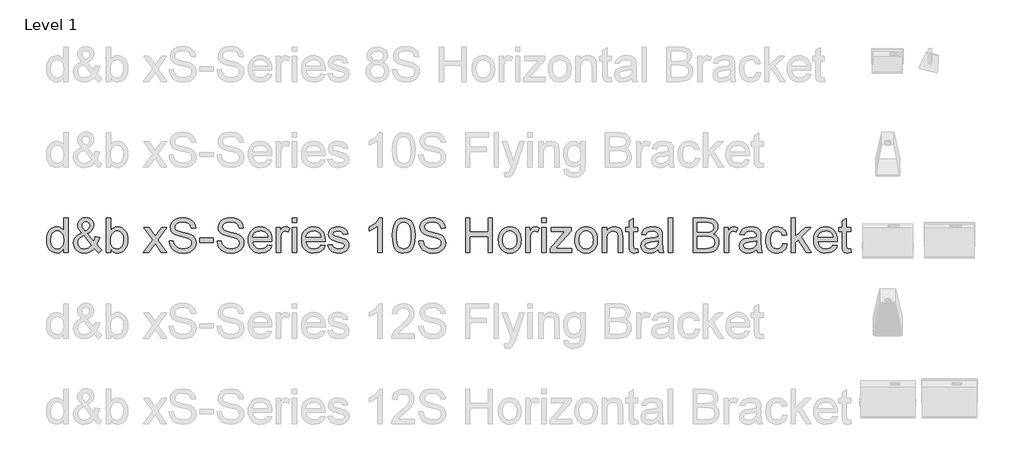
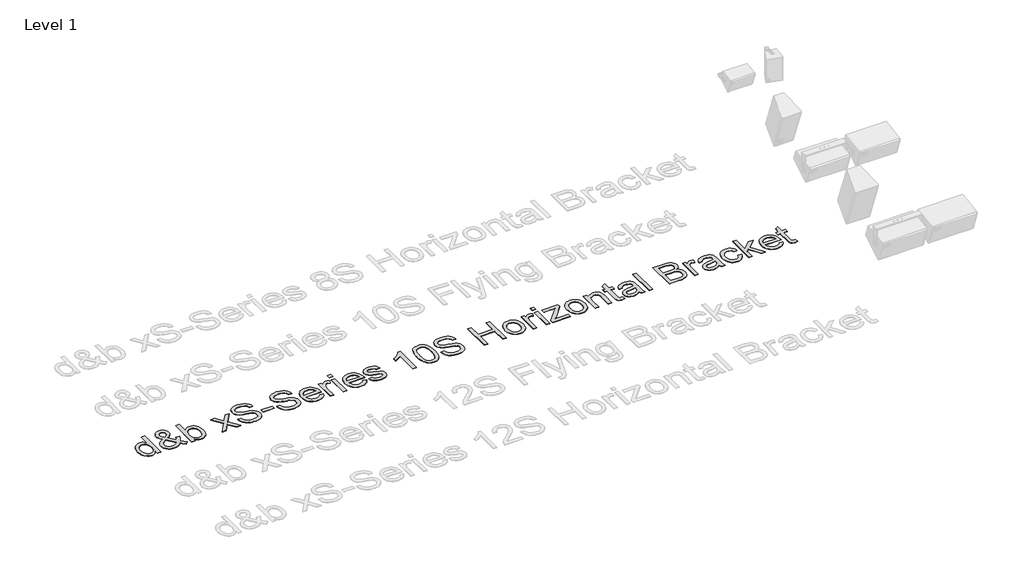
# One storey, part 35 of 55: 1 proxy.
"""IFC4 building model written with IfcOpenShell, lengths in millimetres."""

from ifc_helpers import new_model, si_unit, origin, origin_with_axes, place, context, project, spatial, polyline, outline, extrude, element, save

model = new_model("IFC4")

# Units and contexts
model_context = context("Model", 3, world=origin())
ifc_project = project(units=[si_unit("LENGTHUNIT", "METRE", prefix="MILLI")], contexts=[model_context])

# Site, building, storey
site = spatial("IfcSite", under=ifc_project)
building = spatial("IfcBuilding", under=site)
storey = spatial("IfcBuildingStorey", under=building, Name="Level 1", Elevation=0.0)

# Proxy
placement = place(None, origin())
element("IfcBuildingElementProxy", 1, Name="400mm Arial", ObjectType="400mm Arial", at=placement, inside=storey, context=model_context, shape_type="SweptSolid", body=[
    extrude(outline(polyline([(-20879.8211974, -648.6945164), (-20879.8211974, -601.3113154), (-20894.8491769, -624.7883181), (-20913.0532043, -641.5576057), (-20934.4332796, -651.6191783), (-20958.9894028, -654.9730358), (-20991.4611202, -650.1169935), (-21021.1859854, -635.5488665), (-21046.3491139, -612.2864616), (-21065.1356211, -581.3475858), (-21076.8342686, -543.9830379), (-21080.7338177, -501.4436165), (-21077.1408369, -459.4314926), (-21066.3618944, -421.4905962), (-21048.4092531, -389.7791682), (-21023.2951755, -366.4554497), (-20992.9203855, -352.1080519), (-20959.1856065, -347.325586), (-20934.6110892, -350.7468885), (-20912.8815261, -361.0107962), (-20894.4629008, -376.7438829), (-20879.8211974, -396.5727224), (-20879.8211974, -246.8692758), (-20829.5930424, -246.8692758), (-20829.5930424, -648.6945164), (-20879.8211974, -648.6945164)]), holes=[polyline([(-21030.5056627, -501.2474128), (-21029.089317, -525.6042665), (-21024.8402799, -546.6808392), (-21017.7585515, -564.4771307), (-21007.8441318, -578.9931411), (-20983.1469871, -598.3069458), (-20969.2717046, -603.135397), (-20954.3786151, -604.7448807), (-20939.415015, -603.2089734), (-20925.6225058, -598.6012514), (-20901.5507606, -580.1703635), (-20892.0440767, -566.2613584), (-20885.2535882, -549.1088603), (-20879.8211974, -505.0733855), (-20885.3516901, -456.9298951), (-20892.2648059, -438.3947739), (-20901.9431681, -423.5507354), (-20913.6448812, -412.1770504), (-20926.6280499, -404.0529896), (-20940.8926743, -399.1785532), (-20956.4387543, -397.5537411), (-20971.6261493, -399.1141738), (-20985.5014319, -403.7954722), (-20998.064602, -411.5976362), (-21009.3156597, -422.5206658), (-21018.586286, -436.8036843), (-21025.2081619, -454.6858149), (-21030.5056627, -501.2474128)])]), origin_with_axes(), (0.0, 0.0, 1.0), 5.0),
    extrude(outline(polyline([(-20523.809528, -599.0549725), (-20549.3405384, -623.5191252), (-20577.0788409, -640.99352), (-20607.0734862, -651.4781569), (-20639.3735254, -654.9730358), (-20668.6814577, -652.3855991), (-20694.8010793, -644.623289), (-20717.7323904, -631.6861055), (-20737.4753908, -613.5740486), (-20750.308341, -596.2038871), (-20759.4747341, -577.8404442), (-20764.9745699, -558.4837198), (-20766.8078485, -538.1337141), (-20760.9094739, -502.9396699), (-20743.2143499, -471.3263438), (-20713.796053, -443.3182613), (-20672.7281596, -418.9399477), (-20694.6416638, -390.5885086), (-20707.7995765, -368.1231814), (-20714.3846642, -348.9442668), (-20716.5796934, -330.4520651), (-20714.8506481, -312.8979626), (-20709.6635119, -296.5333452), (-20701.018285, -281.3582129), (-20688.9149674, -267.3725657), (-20674.1935562, -255.6555241), (-20657.6940487, -247.2862088), (-20639.4164449, -242.2646195), (-20619.3607448, -240.5907564), (-20600.212487, -242.1910431), (-20582.8913764, -246.9919032), (-20567.397413, -254.9933366), (-20553.7305969, -266.1953433), (-20542.5715097, -279.6414302), (-20534.6007332, -294.3751041), (-20529.8182672, -310.396365), (-20528.2241119, -327.7052129), (-20532.9452642, -355.68877), (-20547.108721, -381.563137), (-20570.7144823, -405.3283139), (-20603.7625482, -426.9843007), (-20531.069066, -517.5323224), (-20518.6837055, -491.6579554), (-20509.3885538, -461.9085647), (-20459.1603987, -472.7978718), (-20474.6114425, -519.3226815), (-20494.6732739, -555.4977443), (-20466.1256311, -588.8033276), (-20434.0463211, -616.3209009), (-20471.7174374, -654.9730358), (-20497.3465498, -631.52669), (-20523.809528, -599.0549725)]), holes=[polyline([(-20557.4584678, -562.8553842), (-20647.1235727, -450.9211558), (-20681.3733865, -472.7733463), (-20702.305872, -493.0068561), (-20713.0112381, -512.3329235), (-20716.5796934, -531.4627873), (-20711.6991256, -555.1543878), (-20697.0574222, -579.7289051), (-20686.2784798, -590.6733944), (-20673.4639236, -598.4908868), (-20658.6137537, -603.1813823), (-20641.7279702, -604.7448807), (-20619.0051256, -601.8263502), (-20595.5710425, -593.0707588), (-20574.1480476, -579.6798541), (-20557.4584678, -562.8553842)]), polyline([(-20629.1709314, -395.2973981), (-20602.9041569, -378.6323438), (-20587.8700461, -364.1500559), (-20580.8067117, -350.0601755), (-20578.452267, -334.5723435), (-20581.5547385, -317.0243723), (-20590.862153, -303.0325938), (-20604.829406, -293.8723321), (-20621.9113933, -290.8189115), (-20639.3612626, -293.8478066), (-20653.6473468, -302.9344919), (-20663.1754905, -316.3867102), (-20666.3515384, -332.5122043), (-20662.0350563, -350.9063041), (-20648.9875082, -371.360543), (-20629.1709314, -395.2973981)])]), origin_with_axes(), (0.0, 0.0, 1.0), 5.0),
    extrude(outline(polyline([(-20333.590011, -648.6945164), (-20383.8181661, -648.6945164), (-20383.8181661, -246.8692758), (-20333.590011, -246.8692758), (-20333.590011, -395.8860093), (-20317.0721094, -374.6408241), (-20298.4204923, -359.4656918), (-20277.6351595, -350.3606124), (-20254.7161112, -347.325586), (-20228.8417442, -350.0601755), (-20204.3898543, -358.263944), (-20182.758393, -371.4218567), (-20165.3453119, -389.0188788), (-20151.6968898, -410.883332), (-20141.3594058, -436.8435381), (-20134.8478945, -465.8203766), (-20132.6773907, -496.734727), (-20134.9245365, -532.4070178), (-20141.6659741, -563.7873519), (-20152.9017034, -590.8757295), (-20168.6317244, -613.6721505), (-20187.5132678, -631.7412878), (-20208.2035643, -644.6478145), (-20230.702614, -652.3917305), (-20255.0104168, -654.9730358), (-20278.6836232, -651.6437038), (-20299.671291, -641.6557076), (-20317.9734203, -625.0090473), (-20333.590011, -601.7037229), (-20333.590011, -648.6945164)]), holes=[polyline([(-20333.590011, -499.0891717), (-20330.1564457, -540.9786682), (-20319.8557498, -569.3301073), (-20307.6849872, -584.8240707), (-20293.5399244, -595.8911874), (-20277.4205617, -602.5314574), (-20259.3268989, -604.7448807), (-20244.3050508, -603.1139372), (-20230.3377977, -598.2211067), (-20217.4251396, -590.0663891), (-20205.5670767, -578.6497845), (-20195.6526569, -564.0019498), (-20188.5709285, -546.1535416), (-20184.3218914, -525.1045601), (-20182.9055458, -500.8550053), (-20188.3379366, -454.8942814), (-20195.1284251, -437.1010555), (-20204.6351089, -422.7659205), (-20216.0670419, -411.735592), (-20228.6332778, -403.8567859), (-20242.3338164, -399.1295023), (-20257.1686579, -397.5537411), (-20272.190506, -399.1846846), (-20286.1577591, -404.0775151), (-20299.0704171, -412.2322327), (-20310.9284801, -423.6488372), (-20320.8428999, -438.1495192), (-20327.9246283, -455.556469), (-20332.1736653, -475.8696865), (-20333.590011, -499.0891717)])]), origin_with_axes(), (0.0, 0.0, 1.0), 5.0),
    extrude(outline(polyline([(-19950.6003285, -648.6945164), (-19843.2768878, -500.2663941), (-19944.3218092, -353.6041054), (-19884.0872638, -353.6041054), (-19835.3306367, -424.3355503), (-19812.4729021, -457.5920827), (-19792.6563253, -430.3197641), (-19737.1306695, -353.6041054), (-19676.6999204, -353.6041054), (-19782.8461387, -500.364496), (-19680.623995, -648.6945164), (-19740.9566422, -648.6945164), (-19802.5646137, -559.4218189), (-19813.7482263, -543.0388074), (-19890.1695795, -648.6945164), (-19950.6003285, -648.6945164)])), origin_with_axes(), (0.0, 0.0, 1.0), 5.0),
    extrude(outline(polyline([(-19649.2313981, -510.56709), (-19599.003243, -510.56709), (-19593.2397584, -538.4402825), (-19582.8164352, -560.844296), (-19566.556051, -578.6252591), (-19543.2813835, -592.6293004), (-19514.8318425, -601.7159856), (-19483.0468381, -604.7448807), (-19455.063281, -602.4517496), (-19430.5623402, -595.5723563), (-19410.7089752, -584.6830493), (-19396.6681457, -570.3601769), (-19388.3172244, -553.9158517), (-19385.533584, -536.6621862), (-19387.6182486, -519.849979), (-19393.8722425, -505.3186402), (-19406.5764341, -492.9210169), (-19428.0116917, -482.5099565), (-19501.1466323, -463.3310418), (-19549.1552327, -450.639113), (-19579.8733793, -438.5603208), (-19604.8770922, -421.6622745), (-19622.5967416, -401.1835101), (-19633.1549549, -377.565486), (-19636.6743593, -351.2496606), (-19632.3210891, -321.8313637), (-19619.2612782, -294.3996296), (-19597.8382834, -271.1494875), (-19568.395461, -254.2759667), (-19533.054264, -244.012059), (-19493.9361452, -240.5907564), (-19451.5561394, -244.1714745), (-19414.4736342, -254.9136288), (-19384.013005, -272.59649), (-19361.4986269, -296.999329), (-19347.249331, -326.6015669), (-19341.5839483, -359.8826247), (-19391.8121033, -359.8826247), (-19401.0336787, -329.9125049), (-19409.3968627, -318.0544419), (-19420.2616443, -308.2810436), (-19450.3053406, -295.1844445), (-19491.9741079, -290.8189115), (-19534.6238939, -295.1353936), (-19550.9271976, -300.5309962), (-19563.8827752, -308.0848398), (-19580.805347, -327.1411272), (-19586.4462043, -349.7781326), (-19582.4485532, -369.0796746), (-19570.4556002, -384.6042948), (-19542.1041611, -398.4857088), (-19488.4424407, -412.6614283), (-19433.0639377, -426.1259093), (-19399.5621507, -437.8736077), (-19370.9286687, -456.0960292), (-19350.9526764, -478.5858819), (-19339.2172408, -505.097911), (-19335.3054289, -535.3868619), (-19339.805852, -566.3502632), (-19353.3071212, -595.4742545), (-19375.2574136, -620.5392811), (-19405.1049061, -639.3257883), (-19440.9979261, -651.0612239), (-19481.0848008, -654.9730358), (-19530.2951491, -650.7546556), (-19570.7989567, -638.099515), (-19603.0622077, -616.958563), (-19627.5508858, -587.2827487), (-19643.2717098, -551.1322113), (-19649.2313981, -510.56709)])), origin_with_axes(), (0.0, 0.0, 1.0), 5.0),
    extrude(outline(polyline([(-19291.3557932, -529.4026481), (-19291.3557932, -479.174493), (-19134.3928086, -479.174493), (-19134.3928086, -529.4026481), (-19291.3557932, -529.4026481)])), origin_with_axes(), (0.0, 0.0, 1.0), 5.0),
    extrude(outline(polyline([(-19090.4431729, -510.56709), (-19040.2150178, -510.56709), (-19034.4515332, -538.4402825), (-19024.02821, -560.844296), (-19007.7678258, -578.6252591), (-18984.4931583, -592.6293004), (-18956.0436173, -601.7159856), (-18924.2586129, -604.7448807), (-18896.2750558, -602.4517496), (-18871.774115, -595.5723563), (-18851.9207499, -584.6830493), (-18837.8799205, -570.3601769), (-18829.5289992, -553.9158517), (-18826.7453587, -536.6621862), (-18828.8300234, -519.849979), (-18835.0840173, -505.3186402), (-18847.7882089, -492.9210169), (-18869.2234665, -482.5099565), (-18942.3584071, -463.3310418), (-18990.3670075, -450.639113), (-19021.0851541, -438.5603208), (-19046.088867, -421.6622745), (-19063.8085164, -401.1835101), (-19074.3667297, -377.565486), (-19077.8861341, -351.2496606), (-19073.5328638, -321.8313637), (-19060.473053, -294.3996296), (-19039.0500582, -271.1494875), (-19009.6072358, -254.2759667), (-18974.2660388, -244.012059), (-18935.14792, -240.5907564), (-18892.7679141, -244.1714745), (-18855.685409, -254.9136288), (-18825.2247798, -272.59649), (-18802.7104017, -296.999329), (-18788.4611058, -326.6015669), (-18782.7957231, -359.8826247), (-18833.0238781, -359.8826247), (-18842.2454535, -329.9125049), (-18850.6086375, -318.0544419), (-18861.4734191, -308.2810436), (-18891.5171154, -295.1844445), (-18933.1858827, -290.8189115), (-18975.8356687, -295.1353936), (-18992.1389724, -300.5309962), (-19005.09455, -308.0848398), (-19022.0171218, -327.1411272), (-19027.657979, -349.7781326), (-19023.660328, -369.0796746), (-19011.667375, -384.6042948), (-18983.3159359, -398.4857088), (-18929.6542155, -412.6614283), (-18874.2757125, -426.1259093), (-18840.7739255, -437.8736077), (-18812.1404435, -456.0960292), (-18792.1644512, -478.5858819), (-18780.4290156, -505.097911), (-18776.5172037, -535.3868619), (-18781.0176267, -566.3502632), (-18794.518896, -595.4742545), (-18816.4691883, -620.5392811), (-18846.3166809, -639.3257883), (-18882.2097009, -651.0612239), (-18922.2965756, -654.9730358), (-18971.5069238, -650.7546556), (-19012.0107315, -638.099515), (-19044.2739825, -616.958563), (-19068.7626606, -587.2827487), (-19084.4834846, -551.1322113), (-19090.4431729, -510.56709)])), origin_with_axes(), (0.0, 0.0, 1.0), 5.0),
    extrude(outline(polyline([(-18500.850962, -560.795245), (-18451.6038255, -567.0737644), (-18459.1546035, -586.7983707), (-18469.3480004, -604.180795), (-18482.1840164, -619.2210372), (-18497.6626513, -631.9190974), (-18515.6244897, -642.0051955), (-18535.9101161, -649.2095512), (-18583.4527326, -654.9730358), (-18614.618469, -652.4867667), (-18642.3874282, -645.0279592), (-18666.7596104, -632.5966135), (-18687.7350155, -615.1927294), (-18704.602405, -593.300685), (-18716.6505403, -567.4048582), (-18723.8794215, -537.5052491), (-18726.2890486, -503.6018575), (-18723.8548961, -468.5488348), (-18716.5524385, -437.6528785), (-18704.3816758, -410.9139888), (-18687.342608, -388.3321657), (-18666.4223852, -370.3917871), (-18642.6081574, -357.5772309), (-18615.8999246, -349.8884972), (-18586.2976867, -347.325586), (-18557.6488763, -349.8823658), (-18531.7407868, -357.5527054), (-18508.5734182, -370.3366048), (-18488.1467704, -388.2340638), (-18471.472519, -410.766836), (-18459.5623394, -437.4566748), (-18452.4162316, -468.3035801), (-18450.0341957, -503.3075519), (-18450.3285013, -516.8456094), (-18676.0608935, -516.8456094), (-18673.1515601, -536.8890467), (-18667.3666157, -554.4431493), (-18658.7060604, -569.507917), (-18647.1698942, -582.0833498), (-18633.3957791, -591.9977696), (-18618.0213774, -599.079498), (-18582.4717139, -604.7448807), (-18555.7389556, -602.1206558), (-18533.2245775, -594.2479811), (-18514.9285796, -580.6363473), (-18500.850962, -560.795245)]), holes=[polyline([(-18676.0608935, -466.6174543), (-18500.2623508, -466.6174543), (-18507.0559049, -440.0808997), (-18520.3732332, -421.0981887), (-18534.0707061, -410.7974929), (-18549.65664, -403.439853), (-18567.1310348, -399.025269), (-18586.4938904, -397.5537411), (-18620.3512967, -402.2503679), (-18648.3471166, -416.3402483), (-18667.8080741, -438.3028034), (-18676.0608935, -466.6174543)])]), origin_with_axes(), (0.0, 0.0, 1.0), 5.0),
    extrude(outline(polyline([(-18399.8060406, -648.6945164), (-18399.8060406, -353.6041054), (-18355.8564049, -353.6041054), (-18355.8564049, -397.2594355), (-18339.6205462, -371.9491542), (-18324.6600117, -357.0376707), (-18309.6504263, -349.7536071), (-18293.2674148, -347.325586), (-18268.2514391, -351.2006097), (-18242.843056, -362.8256807), (-18259.618475, -407.8544369), (-18277.2768108, -400.128915), (-18294.9351465, -397.5537411), (-18309.9324692, -400.0308132), (-18323.3356365, -407.4620295), (-18334.1636299, -419.2833042), (-18341.4354307, -434.9305518), (-18347.5422718, -462.9876853), (-18349.5778855, -493.5954673), (-18349.5778855, -648.6945164), (-18399.8060406, -648.6945164)])), origin_with_axes(), (0.0, 0.0, 1.0), 5.0),
    extrude(outline(polyline([(-18211.4504591, -297.0974309), (-18211.4504591, -246.8692758), (-18161.222304, -246.8692758), (-18161.222304, -297.0974309), (-18211.4504591, -297.0974309)])), origin_with_axes(), (0.0, 0.0, 1.0), 5.0),
    extrude(outline(polyline([(-18211.4504591, -648.6945164), (-18211.4504591, -353.6041054), (-18161.222304, -353.6041054), (-18161.222304, -648.6945164), (-18211.4504591, -648.6945164)])), origin_with_axes(), (0.0, 0.0, 1.0), 5.0),
    extrude(outline(polyline([(-17879.2775429, -560.795245), (-17830.0304065, -567.0737644), (-17837.5811844, -586.7983707), (-17847.7745814, -604.180795), (-17860.6105973, -619.2210372), (-17876.0892323, -631.9190974), (-17894.0510707, -642.0051955), (-17914.336697, -649.2095512), (-17961.8793136, -654.9730358), (-17993.0450499, -652.4867667), (-18020.8140092, -645.0279592), (-18045.1861914, -632.5966135), (-18066.1615965, -615.1927294), (-18083.0289859, -593.300685), (-18095.0771213, -567.4048582), (-18102.3060025, -537.5052491), (-18104.7156295, -503.6018575), (-18102.281477, -468.5488348), (-18094.9790194, -437.6528785), (-18082.8082567, -410.9139888), (-18065.769189, -388.3321657), (-18044.8489662, -370.3917871), (-18021.0347384, -357.5772309), (-17994.3265055, -349.8884972), (-17964.7242676, -347.325586), (-17936.0754573, -349.8823658), (-17910.1673678, -357.5527054), (-17886.9999991, -370.3366048), (-17866.5733513, -388.2340638), (-17849.8990999, -410.766836), (-17837.9889203, -437.4566748), (-17830.8428126, -468.3035801), (-17828.4607766, -503.3075519), (-17828.7550822, -516.8456094), (-18054.4874745, -516.8456094), (-18051.578141, -536.8890467), (-18045.7931967, -554.4431493), (-18037.1326413, -569.507917), (-18025.5964751, -582.0833498), (-18011.8223601, -591.9977696), (-17996.4479584, -599.079498), (-17960.8982949, -604.7448807), (-17934.1655366, -602.1206558), (-17911.6511585, -594.2479811), (-17893.3551606, -580.6363473), (-17879.2775429, -560.795245)]), holes=[polyline([(-18054.4874745, -466.6174543), (-17878.6889317, -466.6174543), (-17885.4824859, -440.0808997), (-17898.7998141, -421.0981887), (-17912.4972871, -410.7974929), (-17928.0832209, -403.439853), (-17945.5576157, -399.025269), (-17964.9204714, -397.5537411), (-17998.7778777, -402.2503679), (-18026.7736975, -416.3402483), (-18046.234655, -438.3028034), (-18054.4874745, -466.6174543)])]), origin_with_axes(), (0.0, 0.0, 1.0), 5.0),
    extrude(outline(polyline([(-17797.0681797, -560.795245), (-17746.8400246, -554.5167257), (-17738.918299, -576.0010342), (-17723.5898825, -591.7954345), (-17700.7566734, -601.5075192), (-17670.3205696, -604.7448807), (-17640.2523479, -601.7772993), (-17619.1113959, -592.874555), (-17606.6034081, -579.9741597), (-17602.4340788, -565.0136253), (-17606.6279335, -552.2113318), (-17619.2094978, -542.4501962), (-17670.9091808, -528.1273239), (-17746.545719, -503.5528066), (-17765.6878455, -491.2042343), (-17779.5569967, -474.858011), (-17787.9814944, -455.556469), (-17790.7896603, -434.3419406), (-17788.5333174, -414.880983), (-17781.7642887, -396.9160789), (-17771.0957109, -381.1584668), (-17757.1407205, -368.3193852), (-17725.2085633, -353.4569526), (-17704.3251287, -348.8584276), (-17681.9946916, -347.325586), (-17649.302245, -349.7903953), (-17620.8772295, -357.1848234), (-17598.0194949, -368.785369), (-17582.0288908, -383.8685308), (-17571.4338893, -403.5502176), (-17564.7629625, -428.946338), (-17614.9911176, -435.2248574), (-17621.3309506, -419.4181943), (-17633.8757267, -407.5110804), (-17652.748073, -400.0430759), (-17678.070617, -397.5537411), (-17706.9125654, -399.9327113), (-17726.140531, -407.069622), (-17736.9562617, -417.3703179), (-17740.5615053, -429.2406436), (-17734.5772915, -443.8578215), (-17715.8398352, -454.9433323), (-17672.5769125, -465.6364356), (-17598.8533607, -489.2789852), (-17579.3801404, -500.5852252), (-17564.6158097, -516.0607944), (-17555.3083952, -535.7547439), (-17552.2059237, -559.7161245), (-17555.8479555, -584.4868455), (-17566.7740507, -607.7860386), (-17584.5672766, -627.7865564), (-17608.8107, -642.6612517), (-17638.0941069, -651.8950898), (-17671.0072827, -654.9730358), (-17698.040478, -653.4892451), (-17721.6523707, -649.037873), (-17741.8429609, -641.6189194), (-17758.6122485, -631.2323844), (-17772.3097214, -617.9273189), (-17783.2848676, -601.7527738), (-17791.5376871, -582.7087492), (-17797.0681797, -560.795245)])), origin_with_axes(), (0.0, 0.0, 1.0), 5.0),
    extrude(outline(polyline([(-17162.9377219, -648.6945164), (-17213.165877, -648.6945164), (-17213.165877, -335.5533621), (-17234.1351507, -352.5127221), (-17260.7452817, -369.4475566), (-17313.6221871, -394.8068888), (-17313.6221871, -347.325586), (-17274.1729745, -325.8658029), (-17239.9967371, -300.3347925), (-17213.0555124, -273.1851012), (-17195.3113375, -246.8692758), (-17162.9377219, -246.8692758), (-17162.9377219, -648.6945164)])), origin_with_axes(), (0.0, 0.0, 1.0), 5.0),
    extrude(outline(polyline([(-17043.6458536, -451.0192577), (-17039.9547709, -386.7012222), (-17028.8815229, -335.4062093), (-17010.536474, -296.3494042), (-16998.678411, -281.1160239), (-16985.029989, -268.7459918), (-16969.5452227, -259.1749286), (-16952.1781269, -252.3384548), (-16911.7969465, -246.8692758), (-16880.845808, -250.1066374), (-16853.132031, -259.8187221), (-16829.9554653, -275.6253851), (-16812.6159606, -297.1464818), (-16799.5193616, -324.1980712), (-16789.0715129, -356.5962123), (-16782.2289078, -397.7376821), (-16779.9480394, -451.0192577), (-16783.6023339, -514.9694112), (-16794.5652174, -566.1417967), (-16812.7999016, -605.2353901), (-16824.6303734, -620.5147556), (-16838.2695984, -632.949167), (-16853.7727588, -642.5846096), (-16871.195037, -649.4670686), (-16911.7969465, -654.9730358), (-16939.4616726, -652.5818028), (-16963.9871389, -645.4081039), (-16985.3733456, -633.4519391), (-17003.6202925, -616.7133083), (-17021.1314755, -586.4550142), (-17033.6394633, -548.7532411), (-17041.144256, -503.6079889), (-17043.6458536, -451.0192577)]), holes=[polyline([(-16993.4176985, -450.9211558), (-16991.9461705, -494.585683), (-16987.5315866, -529.9299457), (-16980.1739467, -556.9539439), (-16969.8732508, -575.6576777), (-16957.4143139, -588.383329), (-16943.5819509, -597.47308), (-16928.3761618, -602.9269305), (-16911.7969465, -604.7448807), (-16895.2177313, -602.9207992), (-16880.0119421, -597.4485545), (-16866.1795791, -588.3281467), (-16853.7206422, -575.5595758), (-16843.4199463, -556.8251852), (-16836.0623064, -529.8073183), (-16831.6477225, -494.5059752), (-16830.1761945, -450.9211558), (-16831.5986716, -408.4123913), (-16835.8661027, -373.6904623), (-16842.978488, -346.7553689), (-16852.9358273, -327.607111), (-16865.1862977, -314.259126), (-16879.1780763, -304.7248509), (-16894.9111629, -299.0042859), (-16912.3855577, -297.0974309), (-16928.8789338, -298.7774253), (-16943.8272056, -303.8174087), (-16957.2303729, -312.2173809), (-16969.0884359, -323.977342), (-16979.7324883, -344.8239884), (-16987.3353829, -372.9301728), (-16991.8971196, -408.2958953), (-16993.4176985, -450.9211558)])]), origin_with_axes(), (0.0, 0.0, 1.0), 5.0),
    extrude(outline(polyline([(-16735.9984038, -510.56709), (-16685.7702487, -510.56709), (-16680.0067641, -538.4402825), (-16669.5834409, -560.844296), (-16653.3230567, -578.6252591), (-16630.0483891, -592.6293004), (-16601.5988482, -601.7159856), (-16569.8138438, -604.7448807), (-16541.8302867, -602.4517496), (-16517.3293458, -595.5723563), (-16497.4759808, -584.6830493), (-16483.4351513, -570.3601769), (-16475.08423, -553.9158517), (-16472.3005896, -536.6621862), (-16474.3852543, -519.849979), (-16480.6392482, -505.3186402), (-16493.3434397, -492.9210169), (-16514.7786973, -482.5099565), (-16587.913638, -463.3310418), (-16635.9222383, -450.639113), (-16666.6403849, -438.5603208), (-16691.6440979, -421.6622745), (-16709.3637473, -401.1835101), (-16719.9219606, -377.565486), (-16723.441365, -351.2496606), (-16719.0880947, -321.8313637), (-16706.0282839, -294.3996296), (-16684.605289, -271.1494875), (-16655.1624667, -254.2759667), (-16619.8212697, -244.012059), (-16580.7031509, -240.5907564), (-16538.323145, -244.1714745), (-16501.2406399, -254.9136288), (-16470.7800107, -272.59649), (-16448.2656326, -296.999329), (-16434.0163367, -326.6015669), (-16428.3509539, -359.8826247), (-16478.579109, -359.8826247), (-16487.8006843, -329.9125049), (-16496.1638684, -318.0544419), (-16507.02865, -308.2810436), (-16537.0723462, -295.1844445), (-16578.7411136, -290.8189115), (-16621.3908995, -295.1353936), (-16637.6942033, -300.5309962), (-16650.6497809, -308.0848398), (-16667.5723527, -327.1411272), (-16673.2132099, -349.7781326), (-16669.2155589, -369.0796746), (-16657.2226059, -384.6042948), (-16628.8711668, -398.4857088), (-16575.2094464, -412.6614283), (-16519.8309434, -426.1259093), (-16486.3291564, -437.8736077), (-16457.6956744, -456.0960292), (-16437.7196821, -478.5858819), (-16425.9842464, -505.097911), (-16422.0724345, -535.3868619), (-16426.5728576, -566.3502632), (-16440.0741268, -595.4742545), (-16462.0244192, -620.5392811), (-16491.8719118, -639.3257883), (-16527.7649318, -651.0612239), (-16567.8518065, -654.9730358), (-16617.0621547, -650.7546556), (-16657.5659624, -638.099515), (-16689.8292134, -616.958563), (-16714.3178915, -587.2827487), (-16730.0387154, -551.1322113), (-16735.9984038, -510.56709)])), origin_with_axes(), (0.0, 0.0, 1.0), 5.0),
    extrude(outline(polyline([(-16189.7672173, -648.6945164), (-16189.7672173, -246.8692758), (-16139.5390622, -246.8692758), (-16139.5390622, -410.1107798), (-15926.0694032, -410.1107798), (-15926.0694032, -246.8692758), (-15875.8412481, -246.8692758), (-15875.8412481, -648.6945164), (-15926.0694032, -648.6945164), (-15926.0694032, -460.3389349), (-16139.5390622, -460.3389349), (-16139.5390622, -648.6945164), (-16189.7672173, -648.6945164)])), origin_with_axes(), (0.0, 0.0, 1.0), 5.0),
    extrude(outline(polyline([(-15806.7775349, -501.1493109), (-15804.0613395, -462.932503), (-15795.9127533, -430.000933), (-15782.3317763, -402.3546011), (-15763.3184085, -379.9935072), (-15744.176282, -365.7012916), (-15723.0475928, -355.4925663), (-15699.9323407, -349.3673311), (-15674.8305259, -347.325586), (-15647.1198147, -349.8118551), (-15622.0639851, -357.2706626), (-15599.6630373, -369.7020083), (-15579.9169712, -387.1058924), (-15563.8006741, -408.8937036), (-15552.2890333, -434.4768306), (-15545.3820489, -463.8552736), (-15543.0797207, -497.0290325), (-15547.1509481, -547.7722224), (-15559.3646304, -586.3998319), (-15579.3651482, -615.3276195), (-15606.7968823, -636.9713435), (-15639.3789643, -650.4726127), (-15674.8305259, -654.9730358), (-15702.9459074, -652.4959637), (-15728.2347289, -645.0647474), (-15750.6969904, -632.6793869), (-15770.3326919, -615.3398822), (-15786.2773107, -593.3405389), (-15797.6663241, -566.9756626), (-15804.4997322, -536.2452532), (-15806.7775349, -501.1493109)]), holes=[polyline([(-15756.5493798, -501.051209), (-15755.0962459, -525.4141942), (-15750.7368443, -546.5091609), (-15743.4711749, -564.3361093), (-15733.2992377, -578.8950392), (-15720.9261399, -590.2043449), (-15707.0569887, -598.2824204), (-15691.691784, -603.1292656), (-15674.8305259, -604.7448807), (-15658.055107, -603.1200686), (-15642.751216, -598.2456322), (-15628.9188529, -590.1215714), (-15616.5580179, -578.7478864), (-15606.3860807, -564.0448693), (-15599.1204113, -545.9328124), (-15594.7610097, -524.4117157), (-15593.3078758, -499.4815792), (-15594.7702067, -475.8911462), (-15599.1571995, -455.3480025), (-15606.4688542, -437.8521479), (-15616.7051707, -423.4035826), (-15629.111991, -412.0942769), (-15642.935157, -404.0162014), (-15658.1746686, -399.1693561), (-15674.8305259, -397.5537411), (-15691.691784, -399.1632248), (-15707.0569887, -403.991676), (-15720.9261399, -412.0390946), (-15733.2992377, -423.3054807), (-15743.4711749, -437.8214911), (-15750.7368443, -455.6177826), (-15755.0962459, -476.6943553), (-15756.5493798, -501.051209)])]), origin_with_axes(), (0.0, 0.0, 1.0), 5.0),
    extrude(outline(polyline([(-15486.5730463, -648.6945164), (-15486.5730463, -353.6041054), (-15442.6234106, -353.6041054), (-15442.6234106, -397.2594355), (-15426.3875519, -371.9491542), (-15411.4270174, -357.0376707), (-15396.417432, -349.7536071), (-15380.0344205, -347.325586), (-15355.0184448, -351.2006097), (-15329.6100617, -362.8256807), (-15346.3854806, -407.8544369), (-15364.0438164, -400.128915), (-15381.7021522, -397.5537411), (-15396.6994749, -400.0308132), (-15410.1026422, -407.4620295), (-15420.9306356, -419.2833042), (-15428.2024364, -434.9305518), (-15434.3092775, -462.9876853), (-15436.3448912, -493.5954673), (-15436.3448912, -648.6945164), (-15486.5730463, -648.6945164)])), origin_with_axes(), (0.0, 0.0, 1.0), 5.0),
    extrude(outline(polyline([(-15298.2174647, -648.6945164), (-15298.2174647, -353.6041054), (-15247.9893097, -353.6041054), (-15247.9893097, -648.6945164), (-15298.2174647, -648.6945164)])), origin_with_axes(), (0.0, 0.0, 1.0), 5.0),
    extrude(outline(polyline([(-15298.2174647, -297.0974309), (-15298.2174647, -246.8692758), (-15247.9893097, -246.8692758), (-15247.9893097, -297.0974309), (-15298.2174647, -297.0974309)])), origin_with_axes(), (0.0, 0.0, 1.0), 5.0),
    extrude(outline(polyline([(-15204.039674, -648.6945164), (-15204.039674, -601.4094173), (-15030.6936778, -403.8322604), (-15082.0009534, -403.8322604), (-15191.4826352, -403.8322604), (-15191.4826352, -353.6041054), (-14959.177418, -353.6041054), (-14959.177418, -396.2784168), (-15112.903041, -571.5864502), (-15136.4474887, -598.4663614), (-15078.3711844, -598.4663614), (-14952.8988986, -598.4663614), (-14952.8988986, -648.6945164), (-15204.039674, -648.6945164)])), origin_with_axes(), (0.0, 0.0, 1.0), 5.0),
    extrude(outline(polyline([(-14915.2277823, -501.1493109), (-14912.5115869, -462.932503), (-14904.3630007, -430.000933), (-14890.7820237, -402.3546011), (-14871.7686559, -379.9935072), (-14852.6265295, -365.7012916), (-14831.4978402, -355.4925663), (-14808.3825882, -349.3673311), (-14783.2807734, -347.325586), (-14755.5700621, -349.8118551), (-14730.5142325, -357.2706626), (-14708.1132847, -369.7020083), (-14688.3672186, -387.1058924), (-14672.2509215, -408.8937036), (-14660.7392808, -434.4768306), (-14653.8322963, -463.8552736), (-14651.5299682, -497.0290325), (-14655.6011956, -547.7722224), (-14667.8148778, -586.3998319), (-14687.8153956, -615.3276195), (-14715.2471297, -636.9713435), (-14747.8292118, -650.4726127), (-14783.2807734, -654.9730358), (-14811.3961548, -652.4959637), (-14836.6849763, -645.0647474), (-14859.1472378, -632.6793869), (-14878.7829393, -615.3398822), (-14894.7275581, -593.3405389), (-14906.1165715, -566.9756626), (-14912.9499796, -536.2452532), (-14915.2277823, -501.1493109)]), holes=[polyline([(-14864.9996272, -501.051209), (-14863.5464933, -525.4141942), (-14859.1870917, -546.5091609), (-14851.9214223, -564.3361093), (-14841.7494851, -578.8950392), (-14829.3763874, -590.2043449), (-14815.5072361, -598.2824204), (-14800.1420315, -603.1292656), (-14783.2807734, -604.7448807), (-14766.5053544, -603.1200686), (-14751.2014634, -598.2456322), (-14737.3691004, -590.1215714), (-14725.0082653, -578.7478864), (-14714.8363282, -564.0448693), (-14707.5706588, -545.9328124), (-14703.2112571, -524.4117157), (-14701.7581232, -499.4815792), (-14703.2204542, -475.8911462), (-14707.607447, -455.3480025), (-14714.9191016, -437.8521479), (-14725.1554181, -423.4035826), (-14737.5622384, -412.0942769), (-14751.3854044, -404.0162014), (-14766.624916, -399.1693561), (-14783.2807734, -397.5537411), (-14800.1420315, -399.1632248), (-14815.5072361, -403.991676), (-14829.3763874, -412.0390946), (-14841.7494851, -423.3054807), (-14851.9214223, -437.8214911), (-14859.1870917, -455.6177826), (-14863.5464933, -476.6943553), (-14864.9996272, -501.051209)])]), origin_with_axes(), (0.0, 0.0, 1.0), 5.0),
    extrude(outline(polyline([(-14595.0232937, -648.6945164), (-14595.0232937, -353.6041054), (-14544.7951386, -353.6041054), (-14544.7951386, -394.8068888), (-14527.3452693, -374.0338188), (-14506.3882583, -359.1959117), (-14481.9241056, -350.2931674), (-14453.9528113, -347.325586), (-14429.194353, -349.7168189), (-14406.5205594, -356.8905179), (-14387.6114248, -367.9515032), (-14374.1469438, -382.0045954), (-14365.0112076, -399.0130063), (-14359.0883075, -418.9399477), (-14356.4395571, -467.5003711), (-14356.4395571, -648.6945164), (-14406.6677122, -648.6945164), (-14406.6677122, -474.2693998), (-14408.1147147, -448.2969309), (-14412.4557222, -429.8292548), (-14420.463287, -416.5977657), (-14432.9099612, -406.333858), (-14448.863777, -399.7487703), (-14467.3927668, -397.5537411), (-14496.8110637, -402.4833598), (-14521.8883531, -417.272216), (-14531.9100717, -429.3448768), (-14539.0684422, -445.8443843), (-14543.3634645, -466.7707384), (-14544.7951386, -492.1239393), (-14544.7951386, -648.6945164), (-14595.0232937, -648.6945164)])), origin_with_axes(), (0.0, 0.0, 1.0), 5.0),
    extrude(outline(polyline([(-14180.6410143, -606.8050199), (-14174.3624949, -650.1660444), (-14211.9355094, -654.9730358), (-14236.0440428, -652.8883712), (-14254.0212096, -646.6343773), (-14266.7254012, -636.995869), (-14275.0150088, -624.7576613), (-14279.5767456, -603.7393366), (-14281.0973245, -567.7604775), (-14281.0973245, -403.8322604), (-14318.7684408, -403.8322604), (-14318.7684408, -353.6041054), (-14281.0973245, -353.6041054), (-14281.0973245, -281.8916418), (-14230.8691694, -252.3629803), (-14230.8691694, -353.6041054), (-14180.6410143, -353.6041054), (-14180.6410143, -403.8322604), (-14230.8691694, -403.8322604), (-14230.8691694, -566.2889495), (-14228.220419, -592.187842), (-14219.6365058, -601.3603664), (-14202.5177303, -604.7448807), (-14180.6410143, -606.8050199)])), origin_with_axes(), (0.0, 0.0, 1.0), 5.0),
    extrude(outline(polyline([(-13942.0572777, -611.0234001), (-13966.0554465, -631.6002664), (-13990.7648539, -645.0647474), (-14016.7495855, -652.4959637), (-14044.573727, -654.9730358), (-14066.9378867, -653.4831137), (-14086.5490627, -649.0133475), (-14103.4072551, -641.5637371), (-14117.512464, -631.1342825), (-14128.6500914, -618.3871714), (-14136.6055395, -603.9845913), (-14141.3788084, -587.9265422), (-14142.969898, -570.2130241), (-14140.5664023, -549.3909032), (-14133.3559152, -530.4817686), (-14122.2336162, -514.2949609), (-14108.0946849, -501.6398202), (-14091.4786814, -492.0748883), (-14072.9251661, -485.1587068), (-14029.4660398, -477.6048632), (-13978.1097132, -469.6586121), (-13942.3515833, -460.3389349), (-13942.0572777, -449.1553222), (-13945.5153685, -426.739046), (-13955.8896407, -412.0728171), (-13979.0907319, -401.1835101), (-14011.4152965, -397.5537411), (-14041.3363655, -399.9694995), (-14062.2320628, -407.2167748), (-14076.4813588, -420.6199422), (-14086.4632236, -441.5033767), (-14136.6913786, -435.2248574), (-14127.9725754, -407.7563351), (-14114.9618155, -386.1739247), (-14096.4450884, -369.6682858), (-14071.2083835, -357.4300781), (-14040.3430841, -349.851709), (-14004.9405734, -347.325586), (-13970.9850653, -349.5574034), (-13944.068366, -356.2528557), (-13923.7735426, -366.3205597), (-13909.6836621, -378.669132), (-13900.3394595, -393.9362348), (-13894.2816693, -412.7595302), (-13891.8291226, -456.7091659), (-13891.8291226, -519.2000541), (-13889.2784741, -606.4616634), (-13879.2720839, -648.6945164), (-13929.500239, -648.6945164), (-13937.5445919, -631.2323844), (-13942.0572777, -611.0234001)]), holes=[polyline([(-13942.0572777, -510.56709), (-13975.8043194, -518.930274), (-14023.0894185, -525.9690828), (-14066.3032902, -534.1115377), (-14077.5482165, -539.6788185), (-14085.8746124, -547.3552895), (-14091.0249603, -556.5523394), (-14092.7417429, -566.681357), (-14089.0016093, -581.617366), (-14077.7812085, -593.8555737), (-14059.3257951, -602.022554), (-14033.8806237, -604.7448807), (-14006.9026107, -601.7405111), (-13983.0638575, -592.7274022), (-13963.73779, -579.4468622), (-13950.2978344, -563.6401991), (-13944.3381461, -547.3552895), (-13942.3515833, -524.7918605), (-13942.0572777, -510.56709)])]), origin_with_axes(), (0.0, 0.0, 1.0), 5.0),
    extrude(outline(polyline([(-13822.7654094, -648.6945164), (-13822.7654094, -246.8692758), (-13772.5372543, -246.8692758), (-13772.5372543, -648.6945164), (-13822.7654094, -648.6945164)])), origin_with_axes(), (0.0, 0.0, 1.0), 5.0),
    extrude(outline(polyline([(-13533.9535177, -648.6945164), (-13533.9535177, -246.8692758), (-13380.6203021, -246.8692758), (-13338.4487628, -249.8245945), (-13305.5233242, -258.6905506), (-13280.2866193, -273.6878733), (-13261.181281, -295.0372917), (-13249.1515398, -320.1513693), (-13245.1416261, -346.4426692), (-13248.5138777, -370.6370417), (-13258.6306325, -393.3844118), (-13275.5654671, -413.2868277), (-13299.3919576, -428.946338), (-13270.9301539, -443.8087706), (-13249.8995665, -466.4212506), (-13236.9133321, -495.2877244), (-13232.5845873, -528.9121388), (-13235.539906, -556.9324841), (-13244.4058621, -582.9172157), (-13257.6373512, -605.0146609), (-13273.6892689, -621.3731469), (-13293.3464302, -633.2189472), (-13317.3936499, -641.7783349), (-13346.6157431, -646.9654711), (-13381.7975245, -648.6945164), (-13533.9535177, -648.6945164)]), holes=[polyline([(-13483.7253627, -410.1107798), (-13392.0001185, -410.1107798), (-13338.4365, -405.7942977), (-13319.686781, -398.3508187), (-13306.2100373, -387.2039943), (-13298.0798452, -372.5255026), (-13295.3697811, -354.4870222), (-13297.8959042, -336.9758392), (-13305.4742733, -321.7209991), (-13317.7615319, -309.8138852), (-13334.4143236, -302.3458807), (-13359.9698595, -298.4095434), (-13398.965351, -297.0974309), (-13483.7253627, -297.0974309), (-13483.7253627, -410.1107798)]), polyline([(-13483.7253627, -598.4663614), (-13380.718404, -598.4663614), (-13343.4396952, -596.504324), (-13311.8999455, -585.5659661), (-13300.3239253, -576.1359242), (-13291.0042481, -563.2477917), (-13284.8606188, -547.4779168), (-13282.8127424, -529.4026481), (-13285.2162381, -508.4088489), (-13292.4267252, -490.3581057), (-13305.0205521, -476.2436998), (-13323.5740674, -467.0589127), (-13349.8531046, -462.0189293), (-13385.6234973, -460.3389349), (-13483.7253627, -460.3389349), (-13483.7253627, -598.4663614)])]), origin_with_axes(), (0.0, 0.0, 1.0), 5.0),
    extrude(outline(polyline([(-13169.7993934, -648.6945164), (-13169.7993934, -353.6041054), (-13125.8497578, -353.6041054), (-13125.8497578, -397.2594355), (-13109.613899, -371.9491542), (-13094.6533646, -357.0376707), (-13079.6437792, -349.7536071), (-13063.2607676, -347.325586), (-13038.244792, -351.2006097), (-13012.8364088, -362.8256807), (-13029.6118278, -407.8544369), (-13047.2701636, -400.128915), (-13064.9284994, -397.5537411), (-13079.925822, -400.0308132), (-13093.3289894, -407.4620295), (-13104.1569828, -419.2833042), (-13111.4287835, -434.9305518), (-13117.5356247, -462.9876853), (-13119.5712384, -493.5954673), (-13119.5712384, -648.6945164), (-13169.7993934, -648.6945164)])), origin_with_axes(), (0.0, 0.0, 1.0), 5.0),
    extrude(outline(polyline([(-12793.0882304, -611.0234001), (-12817.0863992, -631.6002664), (-12841.7958065, -645.0647474), (-12867.7805381, -652.4959637), (-12895.6046797, -654.9730358), (-12917.9688393, -653.4831137), (-12937.5800154, -649.0133475), (-12954.4382078, -641.5637371), (-12968.5434166, -631.1342825), (-12979.681044, -618.3871714), (-12987.6364922, -603.9845913), (-12992.4097611, -587.9265422), (-12994.0008507, -570.2130241), (-12991.597355, -549.3909032), (-12984.3868679, -530.4817686), (-12973.2645689, -514.2949609), (-12959.1256375, -501.6398202), (-12942.5096341, -492.0748883), (-12923.9561188, -485.1587068), (-12880.4969924, -477.6048632), (-12829.1406659, -469.6586121), (-12793.382536, -460.3389349), (-12793.0882304, -449.1553222), (-12796.5463211, -426.739046), (-12806.9205934, -412.0728171), (-12830.1216846, -401.1835101), (-12862.4462492, -397.5537411), (-12892.3673182, -399.9694995), (-12913.2630155, -407.2167748), (-12927.5123114, -420.6199422), (-12937.4941762, -441.5033767), (-12987.7223313, -435.2248574), (-12979.003528, -407.7563351), (-12965.9927681, -386.1739247), (-12947.476041, -369.6682858), (-12922.2393362, -357.4300781), (-12891.3740368, -349.851709), (-12855.9715261, -347.325586), (-12822.0160179, -349.5574034), (-12795.0993186, -356.2528557), (-12774.8044952, -366.3205597), (-12760.7146148, -378.669132), (-12751.3704121, -393.9362348), (-12745.3126219, -412.7595302), (-12742.8600753, -456.7091659), (-12742.8600753, -519.2000541), (-12740.3094268, -606.4616634), (-12730.3030365, -648.6945164), (-12780.5311916, -648.6945164), (-12788.5755446, -631.2323844), (-12793.0882304, -611.0234001)]), holes=[polyline([(-12793.0882304, -510.56709), (-12826.8352721, -518.930274), (-12874.1203712, -525.9690828), (-12917.3342429, -534.1115377), (-12928.5791692, -539.6788185), (-12936.905565, -547.3552895), (-12942.055913, -556.5523394), (-12943.7726956, -566.681357), (-12940.032562, -581.617366), (-12928.8121611, -593.8555737), (-12910.3567477, -602.022554), (-12884.9115764, -604.7448807), (-12857.9335634, -601.7405111), (-12834.0948101, -592.7274022), (-12814.7687426, -579.4468622), (-12801.3287871, -563.6401991), (-12795.3690988, -547.3552895), (-12793.382536, -524.7918605), (-12793.0882304, -510.56709)])]), origin_with_axes(), (0.0, 0.0, 1.0), 5.0),
    extrude(outline(polyline([(-12485.4407806, -541.9596869), (-12435.2126255, -548.2382063), (-12440.6756731, -571.9390038), (-12449.2166668, -592.9113432), (-12460.8356064, -611.1552245), (-12475.5324921, -626.6706476), (-12492.6880559, -639.0529425), (-12511.6830295, -647.8974388), (-12532.5174132, -653.2041366), (-12555.1912068, -654.9730358), (-12583.3617706, -652.5051608), (-12608.6199353, -645.1015356), (-12630.9657008, -632.7621604), (-12650.3990672, -615.487035), (-12666.1290882, -593.601122), (-12677.3648174, -567.4293837), (-12684.106255, -536.9718202), (-12686.3534009, -502.2284314), (-12682.5151654, -457.530769), (-12671.0004589, -418.7927949), (-12651.6253405, -387.5105626), (-12624.2058691, -365.1801255), (-12591.4030579, -351.7892209), (-12555.8779199, -347.325586), (-12533.593468, -348.8584276), (-12513.4366004, -353.4569526), (-12495.4073169, -361.1211608), (-12479.5056177, -371.8510523), (-12466.0012828, -385.4013725), (-12455.1640923, -401.5268666), (-12446.9940464, -420.2275347), (-12441.4911449, -441.5033767), (-12491.7192999, -447.7818961), (-12500.8305107, -425.8683919), (-12515.018493, -410.1598308), (-12533.4984319, -400.7052635), (-12555.4855124, -397.5537411), (-12572.5521713, -399.1049768), (-12587.9449671, -403.758684), (-12601.6638999, -411.5148628), (-12613.7089695, -422.373513), (-12623.5160904, -436.5860207), (-12630.5211767, -454.403772), (-12634.7242285, -475.8267669), (-12636.1252458, -500.8550053), (-12630.643804, -547.9316379), (-12623.7920019, -565.8689509), (-12614.1994789, -580.0722616), (-12602.3935325, -590.8665325), (-12588.9014603, -598.576726), (-12573.7232623, -603.202842), (-12556.8589385, -604.7448807), (-12530.8496815, -600.8943825), (-12509.5247885, -589.3428879), (-12494.012431, -569.7960912), (-12485.4407806, -541.9596869)])), origin_with_axes(), (0.0, 0.0, 1.0), 5.0),
    extrude(outline(polyline([(-12391.2629898, -648.6945164), (-12391.2629898, -246.8692758), (-12341.0348347, -246.8692758), (-12341.0348347, -462.7914815), (-12228.4138933, -353.6041054), (-12158.9577726, -353.6041054), (-12273.050242, -464.1649076), (-12152.6792532, -648.6945164), (-12211.3441687, -648.6945164), (-12309.0536266, -499.0891717), (-12341.0348347, -530.187463), (-12341.0348347, -648.6945164), (-12391.2629898, -648.6945164)])), origin_with_axes(), (0.0, 0.0, 1.0), 5.0),
    extrude(outline(polyline([(-11902.127089, -560.795245), (-11852.8799526, -567.0737644), (-11860.4307305, -586.7983707), (-11870.6241275, -604.180795), (-11883.4601434, -619.2210372), (-11898.9387784, -631.9190974), (-11916.9006168, -642.0051955), (-11937.1862431, -649.2095512), (-11984.7288597, -654.9730358), (-12015.894596, -652.4867667), (-12043.6635553, -645.0279592), (-12068.0357375, -632.5966135), (-12089.0111425, -615.1927294), (-12105.878532, -593.300685), (-12117.9266674, -567.4048582), (-12125.1555486, -537.5052491), (-12127.5651756, -503.6018575), (-12125.1310231, -468.5488348), (-12117.8285655, -437.6528785), (-12105.6578028, -410.9139888), (-12088.6187351, -388.3321657), (-12067.6985123, -370.3917871), (-12043.8842845, -357.5772309), (-12017.1760516, -349.8884972), (-11987.5738137, -347.325586), (-11958.9250034, -349.8823658), (-11933.0169139, -357.5527054), (-11909.8495452, -370.3366048), (-11889.4228974, -388.2340638), (-11872.748646, -410.766836), (-11860.8384664, -437.4566748), (-11853.6923587, -468.3035801), (-11851.3103227, -503.3075519), (-11851.6046283, -516.8456094), (-12077.3370206, -516.8456094), (-12074.4276871, -536.8890467), (-12068.6427428, -554.4431493), (-12059.9821874, -569.507917), (-12048.4460212, -582.0833498), (-12034.6719062, -591.9977696), (-12019.2975045, -599.079498), (-11983.747841, -604.7448807), (-11957.0150827, -602.1206558), (-11934.5007046, -594.2479811), (-11916.2047067, -580.6363473), (-11902.127089, -560.795245)]), holes=[polyline([(-12077.3370206, -466.6174543), (-11901.5384778, -466.6174543), (-11908.332032, -440.0808997), (-11921.6493602, -421.0981887), (-11935.3468332, -410.7974929), (-11950.932767, -403.439853), (-11968.4071618, -399.025269), (-11987.7700175, -397.5537411), (-12021.6274238, -402.2503679), (-12049.6232436, -416.3402483), (-12069.0842011, -438.3028034), (-12077.3370206, -466.6174543)])]), origin_with_axes(), (0.0, 0.0, 1.0), 5.0),
    extrude(outline(polyline([(-11694.3473381, -606.8050199), (-11688.0688187, -650.1660444), (-11725.6418332, -654.9730358), (-11749.7503666, -652.8883712), (-11767.7275334, -646.6343773), (-11780.431725, -636.995869), (-11788.7213326, -624.7576613), (-11793.2830694, -603.7393366), (-11794.8036483, -567.7604775), (-11794.8036483, -403.8322604), (-11832.4747646, -403.8322604), (-11832.4747646, -353.6041054), (-11794.8036483, -353.6041054), (-11794.8036483, -281.8916418), (-11744.5754932, -252.3629803), (-11744.5754932, -353.6041054), (-11694.3473381, -353.6041054), (-11694.3473381, -403.8322604), (-11744.5754932, -403.8322604), (-11744.5754932, -566.2889495), (-11741.9267428, -592.187842), (-11733.3428296, -601.3603664), (-11716.2240541, -604.7448807), (-11694.3473381, -606.8050199)])), origin_with_axes(), (0.0, 0.0, 1.0), 5.0),
])

save(model, "model.ifc")
